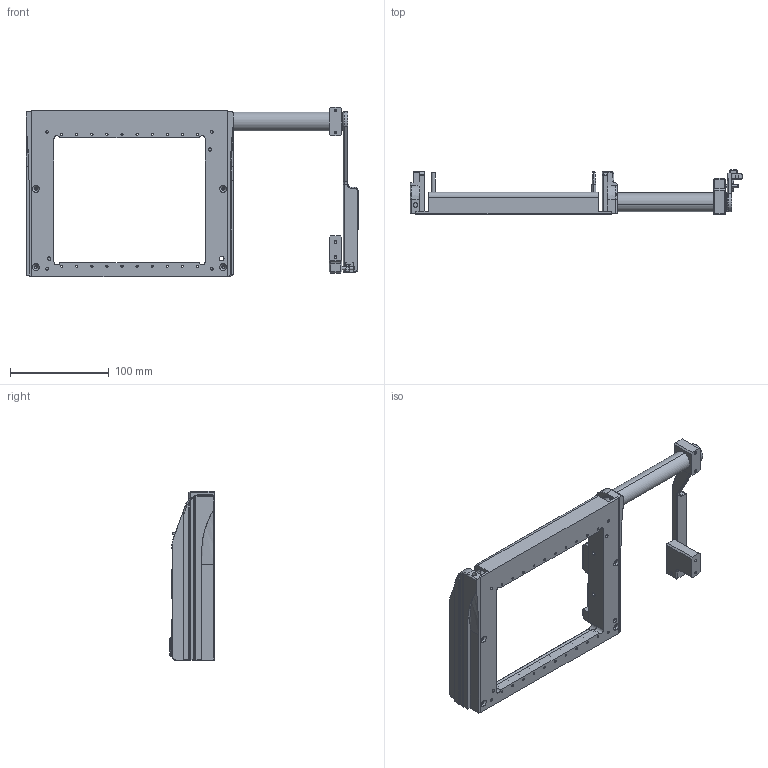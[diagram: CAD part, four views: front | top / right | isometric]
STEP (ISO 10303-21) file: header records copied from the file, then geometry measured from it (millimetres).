
FILE_DESCRIPTION (( 'STEP AP203' ), '1' );
FILE_NAME ('310104360.STEP', '2015-07-01T19:23:08', ( 'VPC' ), ( 'Virginia Panel Corporation' ), 'SwSTEP 2.0', 'SolidWorks 2015', '' );
FILE_SCHEMA (( 'CONFIG_CONTROL_DESIGN' ));
Length unit declared in the file: inch
Products named in the file (1): 310104360
Bounding box: 335.97 x 44.91 x 171.27 mm (x, y, z)
Volume: 333480.7 mm3; surface area: 126829.3 mm2
Topology: 5 solids, 7 shells, 1324 faces, 3377 edges, 2135 vertices
Faces by surface type: plane 616, cylinder 385, bspline 219, torus 45, cone 42, sphere 17
Entity records: 50180 total; most frequent: CARTESIAN_POINT 19278, ORIENTED_EDGE 6676, DIRECTION 5887, EDGE_CURVE 3338, VERTEX_POINT 2130, VECTOR 1993, LINE 1993, AXIS2_PLACEMENT_3D 1947
